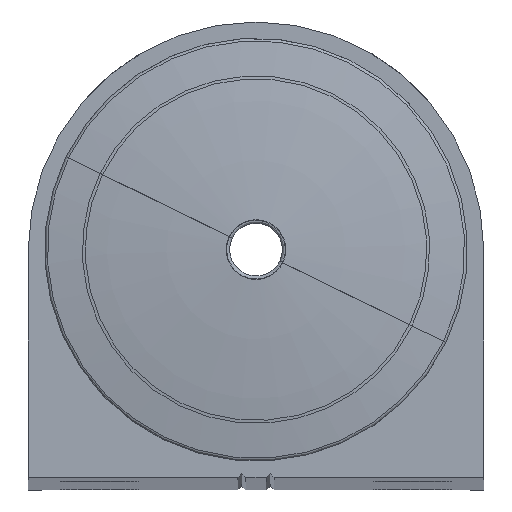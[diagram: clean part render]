
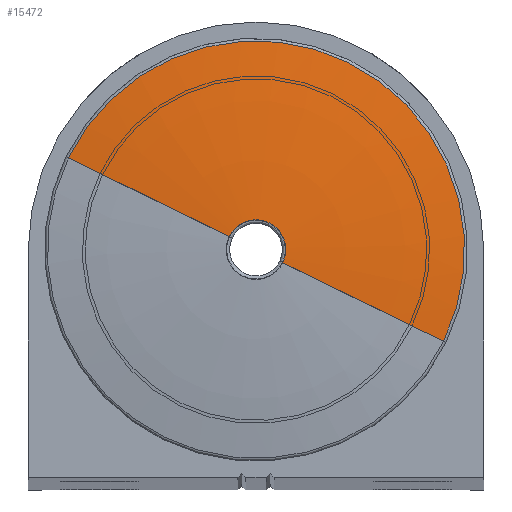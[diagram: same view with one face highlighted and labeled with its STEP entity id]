
A CAD part, top view. The second image highlights one B-rep face of the part: STEP entity #15472.
In plain terms, the highlighted toroidal (fillet/blend) face has major radius 5.57 mm and minor radius 140 mm.
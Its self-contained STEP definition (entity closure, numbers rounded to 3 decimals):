
#828 = EDGE_LOOP ( 'NONE', ( #12104, #26764, #6930, #27410 ) ) ;
#2563 = DIRECTION ( 'NONE',  ( 0.439, 0.898, 0. ) ) ;
#3219 = FACE_OUTER_BOUND ( 'NONE', #828, .T. ) ;
#5723 = DIRECTION ( 'NONE',  ( -0.898, 0.439, 0. ) ) ;
#6930 = ORIENTED_EDGE ( 'NONE', *, *, #19116, .T. ) ;
#7711 = CARTESIAN_POINT ( 'NONE',  ( 26.098, 1.161, 268.287 ) ) ;
#10286 = TOROIDAL_SURFACE ( 'NONE', #25067, -5.57, 140. ) ;
#10586 = CARTESIAN_POINT ( 'NONE',  ( 16.694, 5.761, 129.964 ) ) ;
#10737 = DIRECTION ( 'NONE',  ( 0., 0., 1. ) ) ;
#10742 = VERTEX_POINT ( 'NONE', #7711 ) ;
#11513 = EDGE_CURVE ( 'NONE', #17732, #15818, #13678, .T. ) ;
#12104 = ORIENTED_EDGE ( 'NONE', *, *, #11513, .T. ) ;
#13592 = DIRECTION ( 'NONE',  ( 0.898, -0.439, 0. ) ) ;
#13678 = CIRCLE ( 'NONE', #14618, 2.289 ) ;
#13877 = CIRCLE ( 'NONE', #35722, 16.039 ) ;
#14618 = AXIS2_PLACEMENT_3D ( 'NONE', #33399, #15384, #36443 ) ;
#15384 = DIRECTION ( 'NONE',  ( 0., 0., -1. ) ) ;
#15472 = ADVANCED_FACE ( 'NONE', ( #3219 ), #10286, .T. ) ;
#15818 = VERTEX_POINT ( 'NONE', #38314 ) ;
#15873 = AXIS2_PLACEMENT_3D ( 'NONE', #10586, #31593, #13592 ) ;
#17732 = VERTEX_POINT ( 'NONE', #37277 ) ;
#18816 = AXIS2_PLACEMENT_3D ( 'NONE', #20548, #2563, #23562 ) ;
#19116 = EDGE_CURVE ( 'NONE', #10742, #26621, #13877, .T. ) ;
#19229 = EDGE_CURVE ( 'NONE', #15818, #10742, #27022, .T. ) ;
#19765 = CIRCLE ( 'NONE', #15873, 140. ) ;
#20548 = CARTESIAN_POINT ( 'NONE',  ( 6.688, 10.657, 129.964 ) ) ;
#23562 = DIRECTION ( 'NONE',  ( -0.898, 0.439, 0. ) ) ;
#23574 = CARTESIAN_POINT ( 'NONE',  ( 11.691, 8.209, 129.964 ) ) ;
#24306 = CARTESIAN_POINT ( 'NONE',  ( -2.716, 15.258, 268.287 ) ) ;
#25067 = AXIS2_PLACEMENT_3D ( 'NONE', #23574, #38760, #5723 ) ;
#25857 = EDGE_CURVE ( 'NONE', #17732, #26621, #19765, .T. ) ;
#26621 = VERTEX_POINT ( 'NONE', #24306 ) ;
#26764 = ORIENTED_EDGE ( 'NONE', *, *, #19229, .T. ) ;
#27022 = CIRCLE ( 'NONE', #18816, 140. ) ;
#27410 = ORIENTED_EDGE ( 'NONE', *, *, #25857, .F. ) ;
#28726 = CARTESIAN_POINT ( 'NONE',  ( 11.691, 8.209, 268.287 ) ) ;
#31593 = DIRECTION ( 'NONE',  ( -0.439, -0.898, 0. ) ) ;
#31755 = DIRECTION ( 'NONE',  ( -0.898, 0.439, 0. ) ) ;
#33399 = CARTESIAN_POINT ( 'NONE',  ( 11.691, 8.209, 269.744 ) ) ;
#35722 = AXIS2_PLACEMENT_3D ( 'NONE', #28726, #10737, #31755 ) ;
#36443 = DIRECTION ( 'NONE',  ( -0.898, 0.439, 0. ) ) ;
#37277 = CARTESIAN_POINT ( 'NONE',  ( 9.635, 9.215, 269.744 ) ) ;
#38314 = CARTESIAN_POINT ( 'NONE',  ( 13.747, 7.203, 269.744 ) ) ;
#38760 = DIRECTION ( 'NONE',  ( 0., 0., -1. ) ) ;
